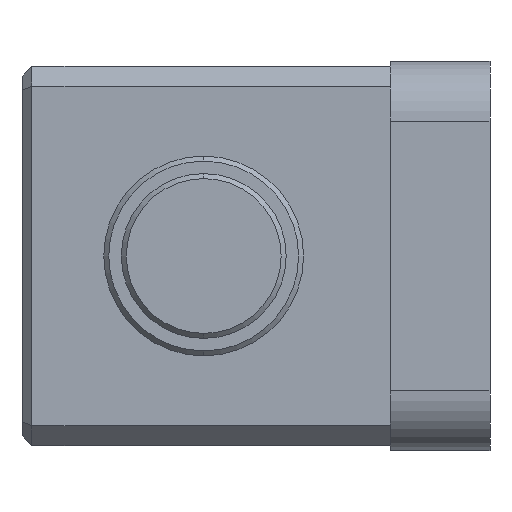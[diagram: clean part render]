
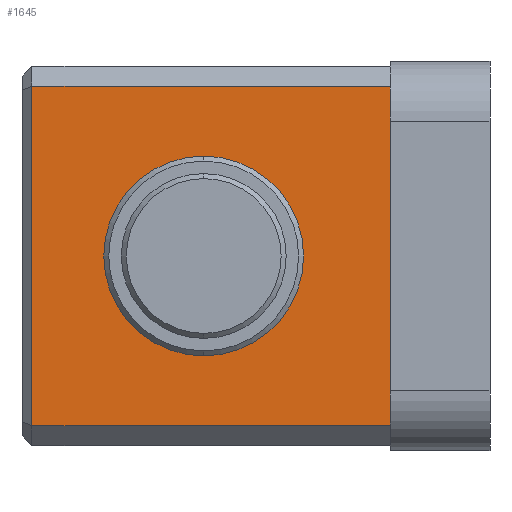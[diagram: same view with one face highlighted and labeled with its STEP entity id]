
A CAD part, left-side view. The second image highlights one B-rep face of the part: STEP entity #1645.
In plain terms, the highlighted planar face has unit normal (-1, 0, 0).
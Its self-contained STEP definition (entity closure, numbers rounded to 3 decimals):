
#82 = CARTESIAN_POINT ( 'NONE',  ( -8., 38.66, 0. ) ) ;
#85 = LINE ( 'NONE', #872, #1302 ) ;
#96 = DIRECTION ( 'NONE',  ( 0., 0., 1. ) ) ;
#99 = LINE ( 'NONE', #325, #793 ) ;
#156 = LINE ( 'NONE', #940, #738 ) ;
#200 = DIRECTION ( 'NONE',  ( 0., 1., 0. ) ) ;
#325 = CARTESIAN_POINT ( 'NONE',  ( -8., 20., -19. ) ) ;
#396 = CARTESIAN_POINT ( 'NONE',  ( -8., 56.85, 17. ) ) ;
#455 = EDGE_CURVE ( 'NONE', #2482, #1383, #1373, .T. ) ;
#485 = EDGE_CURVE ( 'NONE', #1982, #2224, #85, .T. ) ;
#493 = CARTESIAN_POINT ( 'NONE',  ( -8., 20., 17. ) ) ;
#530 = ORIENTED_EDGE ( 'NONE', *, *, #1362, .F. ) ;
#548 = CARTESIAN_POINT ( 'NONE',  ( -8., 38.66, -10. ) ) ;
#662 = CARTESIAN_POINT ( 'NONE',  ( -8., 55.85, 17. ) ) ;
#673 = EDGE_LOOP ( 'NONE', ( #1422, #1334, #1764, #530 ) ) ;
#677 = EDGE_CURVE ( 'NONE', #1340, #1982, #156, .T. ) ;
#738 = VECTOR ( 'NONE', #1531, 1000. ) ;
#793 = VECTOR ( 'NONE', #1098, 1000. ) ;
#847 = DIRECTION ( 'NONE',  ( -1., 0., 0. ) ) ;
#872 = CARTESIAN_POINT ( 'NONE',  ( -8., 20., -17. ) ) ;
#887 = DIRECTION ( 'NONE',  ( 0., 0., 1. ) ) ;
#888 = CARTESIAN_POINT ( 'NONE',  ( -8., 38.66, 10. ) ) ;
#940 = CARTESIAN_POINT ( 'NONE',  ( -8., 55.85, -17. ) ) ;
#1069 = DIRECTION ( 'NONE',  ( 1., 0., 0. ) ) ;
#1098 = DIRECTION ( 'NONE',  ( 0., 0., -1. ) ) ;
#1120 = AXIS2_PLACEMENT_3D ( 'NONE', #1258, #847, #887 ) ;
#1258 = CARTESIAN_POINT ( 'NONE',  ( -8., 56.85, 19. ) ) ;
#1286 = DIRECTION ( 'NONE',  ( 1., 0., 0. ) ) ;
#1302 = VECTOR ( 'NONE', #1462, 1000. ) ;
#1319 = VECTOR ( 'NONE', #200, 1000. ) ;
#1321 = CIRCLE ( 'NONE', #1482, 10. ) ;
#1334 = ORIENTED_EDGE ( 'NONE', *, *, #677, .T. ) ;
#1340 = VERTEX_POINT ( 'NONE', #662 ) ;
#1362 = EDGE_CURVE ( 'NONE', #2137, #2224, #99, .T. ) ;
#1373 = CIRCLE ( 'NONE', #2478, 10. ) ;
#1383 = VERTEX_POINT ( 'NONE', #548 ) ;
#1410 = LINE ( 'NONE', #396, #1319 ) ;
#1422 = ORIENTED_EDGE ( 'NONE', *, *, #2283, .T. ) ;
#1460 = FACE_BOUND ( 'NONE', #2413, .T. ) ;
#1462 = DIRECTION ( 'NONE',  ( 0., -1., 0. ) ) ;
#1482 = AXIS2_PLACEMENT_3D ( 'NONE', #82, #1286, #96 ) ;
#1531 = DIRECTION ( 'NONE',  ( 0., 0., -1. ) ) ;
#1604 = EDGE_CURVE ( 'NONE', #1383, #2482, #1321, .T. ) ;
#1645 = ADVANCED_FACE ( 'NONE', ( #1460, #2235 ), #1854, .T. ) ;
#1655 = CARTESIAN_POINT ( 'NONE',  ( -8., 38.66, 0. ) ) ;
#1764 = ORIENTED_EDGE ( 'NONE', *, *, #485, .T. ) ;
#1854 = PLANE ( 'NONE',  #1120 ) ;
#1893 = CARTESIAN_POINT ( 'NONE',  ( -8., 20., -17. ) ) ;
#1977 = CARTESIAN_POINT ( 'NONE',  ( -8., 55.85, -17. ) ) ;
#1982 = VERTEX_POINT ( 'NONE', #1977 ) ;
#1989 = ORIENTED_EDGE ( 'NONE', *, *, #1604, .T. ) ;
#2137 = VERTEX_POINT ( 'NONE', #493 ) ;
#2224 = VERTEX_POINT ( 'NONE', #1893 ) ;
#2235 = FACE_OUTER_BOUND ( 'NONE', #673, .T. ) ;
#2277 = DIRECTION ( 'NONE',  ( 0., 0., 1. ) ) ;
#2283 = EDGE_CURVE ( 'NONE', #2137, #1340, #1410, .T. ) ;
#2357 = ORIENTED_EDGE ( 'NONE', *, *, #455, .T. ) ;
#2413 = EDGE_LOOP ( 'NONE', ( #2357, #1989 ) ) ;
#2478 = AXIS2_PLACEMENT_3D ( 'NONE', #1655, #1069, #2277 ) ;
#2482 = VERTEX_POINT ( 'NONE', #888 ) ;
